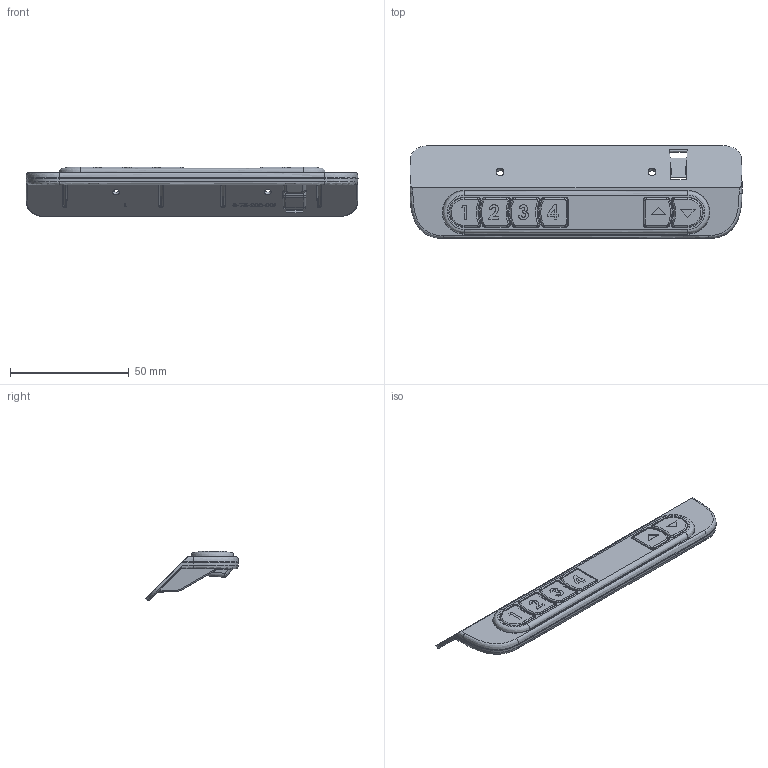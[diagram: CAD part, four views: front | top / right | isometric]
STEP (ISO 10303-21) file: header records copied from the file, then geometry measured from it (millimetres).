
FILE_DESCRIPTION((''),'2;1');
FILE_NAME('LD6EC_ENVELOP','2018-02-16T19:00:32',('TEJ'),(''),'CREO PARAMETRIC BY PTC INC, 2017380','CREO PARAMETRIC BY PTC INC, 2017380','');
FILE_SCHEMA(('AUTOMOTIVE_DESIGN { 1 0 10303 214 1 1 1 1 }'));
Products named in the file (1): LD6EC_ENVELOP
Bounding box: 140 x 39.18 x 20.88 mm (x, y, z)
Volume: 22812.5 mm3; surface area: 17273.9 mm2
Topology: 1 solids, 1 shells, 1101 faces, 2928 edges, 1875 vertices
Faces by surface type: plane 627, cylinder 201, bspline 98, torus 71, extrusion 46, cone 46, sphere 10, revolution 2
Entity records: 49549 total; most frequent: CARTESIAN_POINT 14214, ORIENTED_EDGE 5856, DIRECTION 4909, PRESENTATION_STYLE_ASSIGNMENT 2929, STYLED_ITEM 2929, CURVE_STYLE 2928, EDGE_CURVE 2928, VECTOR 2059
